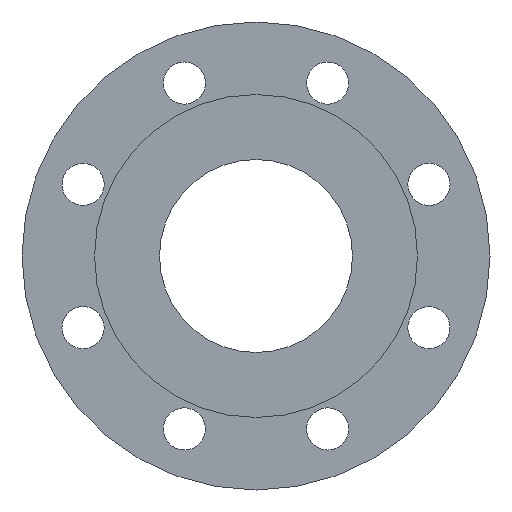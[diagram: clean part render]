
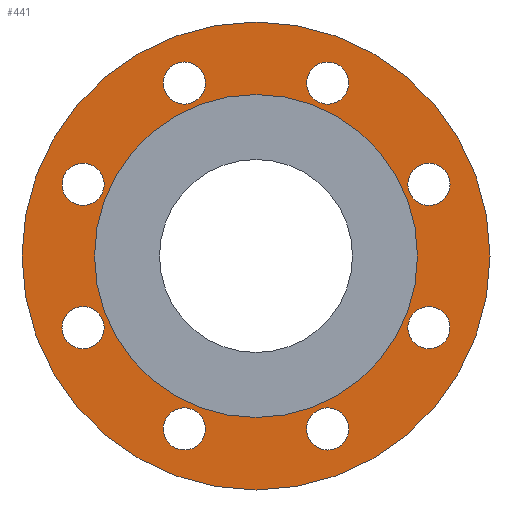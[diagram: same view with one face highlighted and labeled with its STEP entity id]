
A CAD part, left-side view. The second image highlights one B-rep face of the part: STEP entity #441.
In plain terms, the highlighted planar face has unit normal (-1, 0, 0).
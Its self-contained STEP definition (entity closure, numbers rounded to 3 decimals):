
#27=FACE_BOUND('',#90,.T.);
#28=FACE_BOUND('',#91,.T.);
#29=FACE_BOUND('',#92,.T.);
#30=FACE_BOUND('',#93,.T.);
#31=FACE_BOUND('',#94,.T.);
#32=FACE_BOUND('',#95,.T.);
#33=FACE_BOUND('',#96,.T.);
#34=FACE_BOUND('',#97,.T.);
#35=FACE_BOUND('',#98,.T.);
#40=PLANE('',#524);
#58=FACE_OUTER_BOUND('',#89,.T.);
#89=EDGE_LOOP('',(#382,#383));
#90=EDGE_LOOP('',(#384));
#91=EDGE_LOOP('',(#385));
#92=EDGE_LOOP('',(#386));
#93=EDGE_LOOP('',(#387));
#94=EDGE_LOOP('',(#388));
#95=EDGE_LOOP('',(#389));
#96=EDGE_LOOP('',(#390));
#97=EDGE_LOOP('',(#391));
#98=EDGE_LOOP('',(#392,#393));
#134=CIRCLE('',#469,9.);
#137=CIRCLE('',#473,9.);
#140=CIRCLE('',#477,9.);
#143=CIRCLE('',#481,9.);
#146=CIRCLE('',#485,9.);
#149=CIRCLE('',#489,9.);
#152=CIRCLE('',#493,9.);
#155=CIRCLE('',#497,9.);
#173=CIRCLE('',#522,69.);
#174=CIRCLE('',#523,69.);
#175=CIRCLE('',#525,100.);
#176=CIRCLE('',#526,100.);
#182=VERTEX_POINT('',#692);
#185=VERTEX_POINT('',#700);
#188=VERTEX_POINT('',#708);
#191=VERTEX_POINT('',#716);
#194=VERTEX_POINT('',#724);
#197=VERTEX_POINT('',#732);
#200=VERTEX_POINT('',#740);
#203=VERTEX_POINT('',#748);
#220=VERTEX_POINT('',#793);
#221=VERTEX_POINT('',#794);
#222=VERTEX_POINT('',#799);
#223=VERTEX_POINT('',#800);
#230=EDGE_CURVE('',#182,#182,#134,.T.);
#234=EDGE_CURVE('',#185,#185,#137,.T.);
#238=EDGE_CURVE('',#188,#188,#140,.T.);
#242=EDGE_CURVE('',#191,#191,#143,.T.);
#246=EDGE_CURVE('',#194,#194,#146,.T.);
#250=EDGE_CURVE('',#197,#197,#149,.T.);
#254=EDGE_CURVE('',#200,#200,#152,.T.);
#258=EDGE_CURVE('',#203,#203,#155,.T.);
#278=EDGE_CURVE('',#220,#221,#173,.T.);
#279=EDGE_CURVE('',#221,#220,#174,.T.);
#281=EDGE_CURVE('',#222,#223,#175,.T.);
#282=EDGE_CURVE('',#223,#222,#176,.T.);
#382=ORIENTED_EDGE('',*,*,#281,.F.);
#383=ORIENTED_EDGE('',*,*,#282,.F.);
#384=ORIENTED_EDGE('',*,*,#230,.T.);
#385=ORIENTED_EDGE('',*,*,#234,.T.);
#386=ORIENTED_EDGE('',*,*,#238,.T.);
#387=ORIENTED_EDGE('',*,*,#242,.T.);
#388=ORIENTED_EDGE('',*,*,#246,.T.);
#389=ORIENTED_EDGE('',*,*,#250,.T.);
#390=ORIENTED_EDGE('',*,*,#254,.T.);
#391=ORIENTED_EDGE('',*,*,#258,.T.);
#392=ORIENTED_EDGE('',*,*,#278,.T.);
#393=ORIENTED_EDGE('',*,*,#279,.T.);
#441=ADVANCED_FACE('',(#58,#27,#28,#29,#30,#31,#32,#33,#34,#35),#40,.T.);
#469=AXIS2_PLACEMENT_3D('',#694,#543,#544);
#473=AXIS2_PLACEMENT_3D('',#702,#552,#553);
#477=AXIS2_PLACEMENT_3D('',#710,#561,#562);
#481=AXIS2_PLACEMENT_3D('',#718,#570,#571);
#485=AXIS2_PLACEMENT_3D('',#726,#579,#580);
#489=AXIS2_PLACEMENT_3D('',#734,#588,#589);
#493=AXIS2_PLACEMENT_3D('',#742,#597,#598);
#497=AXIS2_PLACEMENT_3D('',#750,#606,#607);
#522=AXIS2_PLACEMENT_3D('',#795,#658,#659);
#523=AXIS2_PLACEMENT_3D('',#796,#660,#661);
#524=AXIS2_PLACEMENT_3D('',#798,#663,#664);
#525=AXIS2_PLACEMENT_3D('',#801,#665,#666);
#526=AXIS2_PLACEMENT_3D('',#802,#667,#668);
#543=DIRECTION('center_axis',(1.,0.,0.));
#544=DIRECTION('ref_axis',(0.,-0.707,-0.707));
#552=DIRECTION('center_axis',(1.,0.,0.));
#553=DIRECTION('ref_axis',(0.,-1.,0.));
#561=DIRECTION('center_axis',(1.,0.,0.));
#562=DIRECTION('ref_axis',(0.,-0.707,0.707));
#570=DIRECTION('center_axis',(1.,0.,0.));
#571=DIRECTION('ref_axis',(0.,0.,1.));
#579=DIRECTION('center_axis',(1.,0.,0.));
#580=DIRECTION('ref_axis',(0.,0.707,0.707));
#588=DIRECTION('center_axis',(1.,0.,0.));
#589=DIRECTION('ref_axis',(0.,1.,0.));
#597=DIRECTION('center_axis',(1.,0.,0.));
#598=DIRECTION('ref_axis',(0.,0.707,-0.707));
#606=DIRECTION('center_axis',(1.,0.,0.));
#607=DIRECTION('ref_axis',(0.,0.,-1.));
#658=DIRECTION('center_axis',(1.,0.,0.));
#659=DIRECTION('ref_axis',(0.,0.,-1.));
#660=DIRECTION('center_axis',(1.,0.,0.));
#661=DIRECTION('ref_axis',(0.,0.,-1.));
#663=DIRECTION('center_axis',(-1.,0.,0.));
#664=DIRECTION('ref_axis',(0.,0.,1.));
#665=DIRECTION('center_axis',(1.,0.,0.));
#666=DIRECTION('ref_axis',(0.,0.,-1.));
#667=DIRECTION('center_axis',(1.,0.,0.));
#668=DIRECTION('ref_axis',(0.,0.,-1.));
#692=CARTESIAN_POINT('',(-47.,80.274,36.979));
#694=CARTESIAN_POINT('Origin',(-47.,73.91,30.615));
#700=CARTESIAN_POINT('',(-47.,82.91,-30.615));
#702=CARTESIAN_POINT('Origin',(-47.,73.91,-30.615));
#708=CARTESIAN_POINT('',(-47.,36.979,-80.274));
#710=CARTESIAN_POINT('Origin',(-47.,30.615,-73.91));
#716=CARTESIAN_POINT('',(-47.,-30.615,-82.91));
#718=CARTESIAN_POINT('Origin',(-47.,-30.615,-73.91));
#724=CARTESIAN_POINT('',(-47.,-80.274,-36.979));
#726=CARTESIAN_POINT('Origin',(-47.,-73.91,-30.615));
#732=CARTESIAN_POINT('',(-47.,-82.91,30.615));
#734=CARTESIAN_POINT('Origin',(-47.,-73.91,30.615));
#740=CARTESIAN_POINT('',(-47.,-36.979,80.274));
#742=CARTESIAN_POINT('Origin',(-47.,-30.615,73.91));
#748=CARTESIAN_POINT('',(-47.,30.615,82.91));
#750=CARTESIAN_POINT('Origin',(-47.,30.615,73.91));
#793=CARTESIAN_POINT('',(-47.,69.,0.));
#794=CARTESIAN_POINT('',(-47.,-69.,0.));
#795=CARTESIAN_POINT('Origin',(-47.,0.,0.));
#796=CARTESIAN_POINT('Origin',(-47.,0.,0.));
#798=CARTESIAN_POINT('Origin',(-47.,100.,0.));
#799=CARTESIAN_POINT('',(-47.,100.,0.));
#800=CARTESIAN_POINT('',(-47.,-100.,0.));
#801=CARTESIAN_POINT('Origin',(-47.,0.,0.));
#802=CARTESIAN_POINT('Origin',(-47.,0.,0.));
